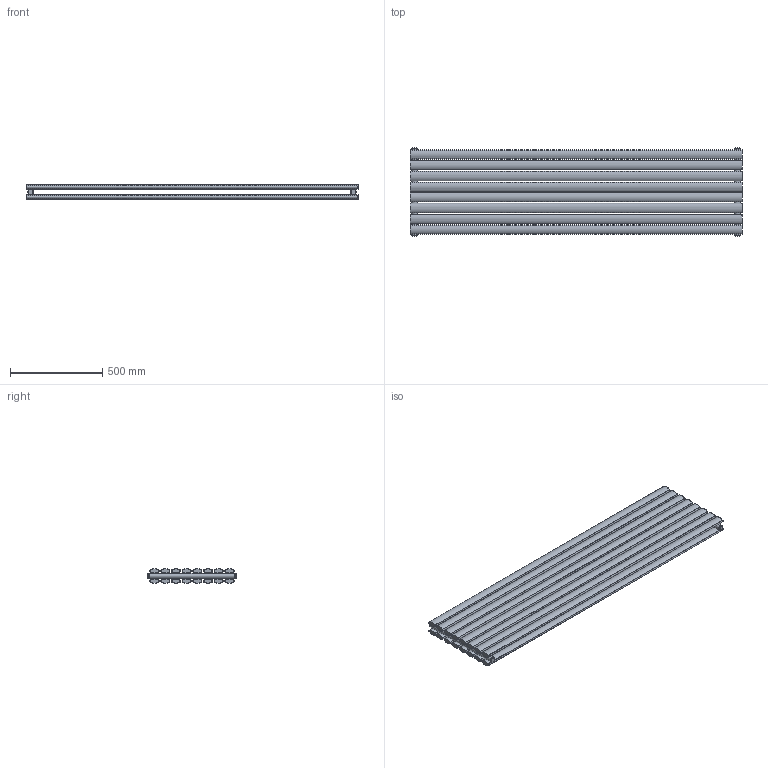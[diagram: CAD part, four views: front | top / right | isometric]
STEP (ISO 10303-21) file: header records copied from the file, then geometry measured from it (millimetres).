
FILE_DESCRIPTION(/* description */ (''),/* implementation_level */ '2;1');
FILE_NAME(/* name */ 'C:\Grzejniki\13DLUXRAD\pokojowe\FORTUNA\FORTUNA PODWÓJNA 1800x468.iam.stp',/* time_stamp */ '2016-06-28T17:31:50+02:00',/* author */ ('m.szydziak'),/* organization */ (''),/* preprocessor_version */ 'ST-DEVELOPER v16.5',/* originating_system */ 'Autodesk Inventor 2017',/* authorisation */ '');
FILE_SCHEMA (('AUTOMOTIVE_DESIGN { 1 0 10303 214 3 1 1 }'));
Length unit declared in the file: millimetre
Products named in the file (5): FORTUNA PODWÓJNA 1800x468; %%c30x1,5x468; 50x25x1,2x1800; zaślepka fi30 G0,5inch; korek
Assembly tree (26 placements, depth 2):
  FORTUNA PODWÓJNA 1800x468
    %%c30x1,5x468  x2
    50x25x1,2x1800  x16
    zaślepka fi30 G0,5inch  x4
    korek  x4
Bounding box: 1800 x 480 x 79.72 mm (x, y, z)
Volume: 4202074.6 mm3; surface area: 6951537 mm2
Topology: 26 solids, 26 shells, 308 faces, 740 edges, 516 vertices
Faces by surface type: cylinder 176, plane 132
Full cylindrical faces by diameter (mm): 5.8 x32, 18.631 x4, 24 x4, 27 x6, 30 x2
Entity records: 1455 total; most frequent: CARTESIAN_POINT 334, DIRECTION 242, ORIENTED_EDGE 150, AXIS2_PLACEMENT_3D 105, EDGE_CURVE 75, VERTEX_POINT 55, EDGE_LOOP 52, FACE_OUTER_BOUND 37
